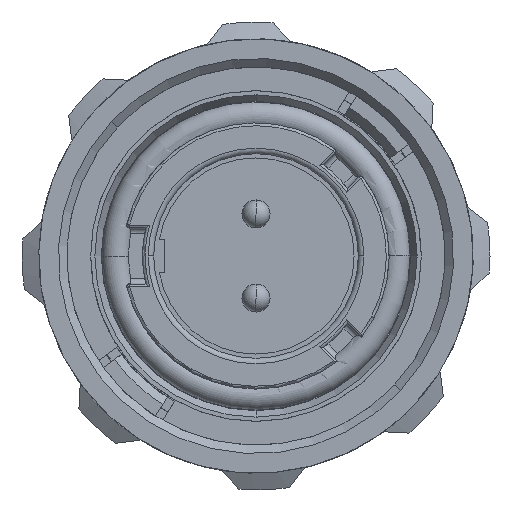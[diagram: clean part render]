
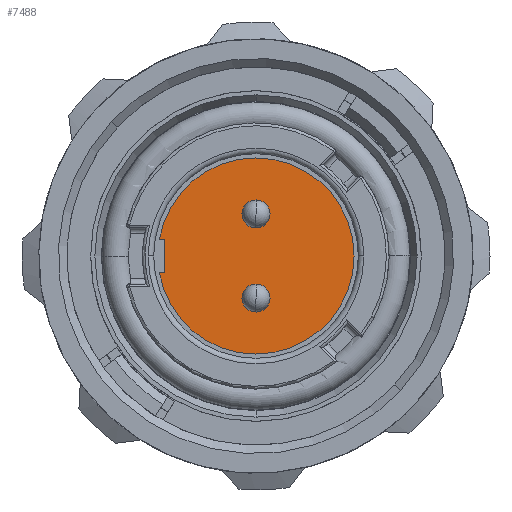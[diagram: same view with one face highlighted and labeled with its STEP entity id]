
A CAD part, left-side view. The second image highlights one B-rep face of the part: STEP entity #7488.
In plain terms, the highlighted planar face has unit normal (-1, 0, 0).
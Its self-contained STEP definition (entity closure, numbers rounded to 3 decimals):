
#1342=CARTESIAN_POINT('',(8.1,10.953,-10.953));
#1343=DIRECTION('',(-1.,0.,0.));
#1344=DIRECTION('',(0.,0.985,-0.171));
#1345=AXIS2_PLACEMENT_3D('',#1342,#1343,#1344);
#1359=DIRECTION('',(0.,1.,0.));
#1360=VECTOR('',#1359,0.198);
#1361=CARTESIAN_POINT('',(8.1,14.203,-11.553));
#1362=LINE('',#1361,#1360);
#1363=DIRECTION('',(0.,0.,-1.));
#1364=VECTOR('',#1363,1.2);
#1365=CARTESIAN_POINT('',(8.1,14.203,-10.353));
#1366=LINE('',#1365,#1364);
#1367=DIRECTION('',(0.,-1.,0.));
#1368=VECTOR('',#1367,0.198);
#1369=CARTESIAN_POINT('',(8.1,14.402,-10.353));
#1370=LINE('',#1369,#1368);
#1371=CARTESIAN_POINT('',(8.1,10.953,-9.453));
#1372=DIRECTION('',(-1.,0.,0.));
#1373=DIRECTION('',(0.,0.,-1.));
#1374=AXIS2_PLACEMENT_3D('',#1371,#1372,#1373);
#1376=CARTESIAN_POINT('',(8.1,10.953,-9.453));
#1377=DIRECTION('',(-1.,0.,0.));
#1378=DIRECTION('',(0.,0.,1.));
#1379=AXIS2_PLACEMENT_3D('',#1376,#1377,#1378);
#1381=CARTESIAN_POINT('',(8.1,10.953,-12.453));
#1382=DIRECTION('',(-1.,0.,0.));
#1383=DIRECTION('',(0.,0.,-1.));
#1384=AXIS2_PLACEMENT_3D('',#1381,#1382,#1383);
#1386=CARTESIAN_POINT('',(8.1,10.953,-12.453));
#1387=DIRECTION('',(-1.,0.,0.));
#1388=DIRECTION('',(0.,0.,1.));
#1389=AXIS2_PLACEMENT_3D('',#1386,#1387,#1388);
#5680=CARTESIAN_POINT('',(8.1,14.203,-10.353));
#5681=CARTESIAN_POINT('',(8.1,14.203,-11.553));
#5682=VERTEX_POINT('',#5680);
#5683=VERTEX_POINT('',#5681);
#5684=CARTESIAN_POINT('',(8.1,14.402,-10.353));
#5685=VERTEX_POINT('',#5684);
#5686=CARTESIAN_POINT('',(8.1,14.402,-11.553));
#5687=VERTEX_POINT('',#5686);
#5688=CARTESIAN_POINT('',(8.1,10.953,-9.953));
#5689=CARTESIAN_POINT('',(8.1,10.953,-8.953));
#5690=VERTEX_POINT('',#5688);
#5691=VERTEX_POINT('',#5689);
#5692=CARTESIAN_POINT('',(8.1,10.953,-12.953));
#5693=CARTESIAN_POINT('',(8.1,10.953,-11.953));
#5694=VERTEX_POINT('',#5692);
#5695=VERTEX_POINT('',#5693);
#7465=CARTESIAN_POINT('',(8.1,4.854,-18.28));
#7466=DIRECTION('',(-1.,0.,0.));
#7467=DIRECTION('',(0.,0.,1.));
#7468=AXIS2_PLACEMENT_3D('',#7465,#7466,#7467);
#7469=PLANE('',#7468);
#7470=ORIENTED_EDGE('',*,*,#7432,.F.);
#7471=ORIENTED_EDGE('',*,*,#7446,.F.);
#7472=ORIENTED_EDGE('',*,*,#7459,.F.);
#7473=ORIENTED_EDGE('',*,*,#7417,.F.);
#7474=EDGE_LOOP('',(#7470,#7471,#7472,#7473));
#7475=FACE_OUTER_BOUND('',#7474,.F.);
#7477=ORIENTED_EDGE('',*,*,#7476,.T.);
#7479=ORIENTED_EDGE('',*,*,#7478,.T.);
#7480=EDGE_LOOP('',(#7477,#7479));
#7481=FACE_BOUND('',#7480,.F.);
#7483=ORIENTED_EDGE('',*,*,#7482,.T.);
#7485=ORIENTED_EDGE('',*,*,#7484,.T.);
#7486=EDGE_LOOP('',(#7483,#7485));
#7487=FACE_BOUND('',#7486,.F.);
#1346=CIRCLE('',#1345,3.5);
#1375=CIRCLE('',#1374,0.5);
#1380=CIRCLE('',#1379,0.5);
#1385=CIRCLE('',#1384,0.5);
#1390=CIRCLE('',#1389,0.5);
#7417=EDGE_CURVE('',#5685,#5682,#1370,.T.);
#7432=EDGE_CURVE('',#5687,#5685,#1346,.T.);
#7446=EDGE_CURVE('',#5683,#5687,#1362,.T.);
#7459=EDGE_CURVE('',#5682,#5683,#1366,.T.);
#7476=EDGE_CURVE('',#5690,#5691,#1375,.T.);
#7478=EDGE_CURVE('',#5691,#5690,#1380,.T.);
#7482=EDGE_CURVE('',#5694,#5695,#1385,.T.);
#7484=EDGE_CURVE('',#5695,#5694,#1390,.T.);
#7488=ADVANCED_FACE('',(#7475,#7481,#7487),#7469,.T.);
